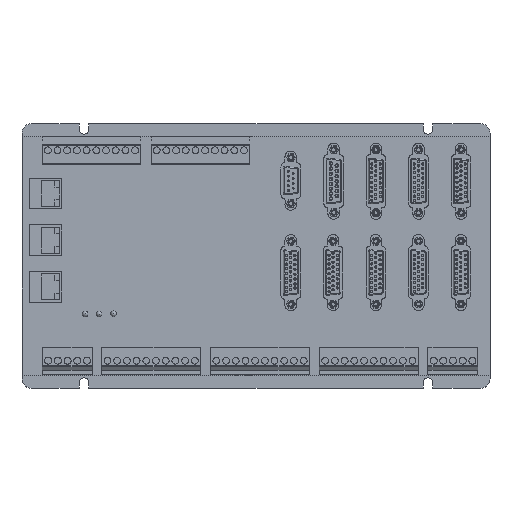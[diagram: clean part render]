
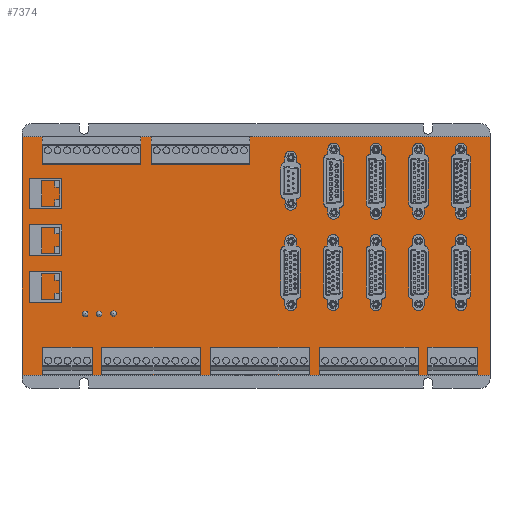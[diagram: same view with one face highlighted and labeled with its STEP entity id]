
A CAD part, top view. The second image highlights one B-rep face of the part: STEP entity #7374.
In plain terms, the highlighted planar face has unit normal (0, 0, 1).
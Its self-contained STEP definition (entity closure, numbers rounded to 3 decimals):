
#5783=FACE_BOUND('',#12498,.T.);
#5784=FACE_BOUND('',#12499,.T.);
#5785=FACE_BOUND('',#12500,.T.);
#5786=FACE_BOUND('',#12501,.T.);
#5787=FACE_BOUND('',#12502,.T.);
#5788=FACE_BOUND('',#12503,.T.);
#5789=FACE_BOUND('',#12504,.T.);
#5790=FACE_BOUND('',#12505,.T.);
#7374=ADVANCED_FACE('',(#5783,#5784,#5785,#5786,#5787,#5788,#5789,#5790),
#9667,.T.);
#9667=PLANE('',#36599);
#12498=EDGE_LOOP('',(#15777,#15778,#15779,#15780));
#12499=EDGE_LOOP('',(#15781,#15782,#15783,#15784));
#12500=EDGE_LOOP('',(#15785,#15786,#15787,#15788));
#12501=EDGE_LOOP('',(#15789,#15790,#15791,#15792));
#12502=EDGE_LOOP('',(#15793,#15794,#15795,#15796));
#12503=EDGE_LOOP('',(#15797,#15798,#15799,#15800));
#12504=EDGE_LOOP('',(#15801,#15802,#15803,#15804));
#12505=EDGE_LOOP('',(#15805,#15806,#15807,#15808));
#15777=ORIENTED_EDGE('',*,*,#27302,.F.);
#15778=ORIENTED_EDGE('',*,*,#27303,.F.);
#15779=ORIENTED_EDGE('',*,*,#27304,.F.);
#15780=ORIENTED_EDGE('',*,*,#27305,.F.);
#15781=ORIENTED_EDGE('',*,*,#27306,.F.);
#15782=ORIENTED_EDGE('',*,*,#27307,.F.);
#15783=ORIENTED_EDGE('',*,*,#27308,.F.);
#15784=ORIENTED_EDGE('',*,*,#27309,.F.);
#15785=ORIENTED_EDGE('',*,*,#27310,.F.);
#15786=ORIENTED_EDGE('',*,*,#27311,.F.);
#15787=ORIENTED_EDGE('',*,*,#27312,.F.);
#15788=ORIENTED_EDGE('',*,*,#27313,.F.);
#15789=ORIENTED_EDGE('',*,*,#27314,.F.);
#15790=ORIENTED_EDGE('',*,*,#27315,.F.);
#15791=ORIENTED_EDGE('',*,*,#27316,.F.);
#15792=ORIENTED_EDGE('',*,*,#27317,.F.);
#15793=ORIENTED_EDGE('',*,*,#27318,.F.);
#15794=ORIENTED_EDGE('',*,*,#27319,.F.);
#15795=ORIENTED_EDGE('',*,*,#27320,.F.);
#15796=ORIENTED_EDGE('',*,*,#27321,.F.);
#15797=ORIENTED_EDGE('',*,*,#27322,.F.);
#15798=ORIENTED_EDGE('',*,*,#27323,.F.);
#15799=ORIENTED_EDGE('',*,*,#27324,.F.);
#15800=ORIENTED_EDGE('',*,*,#27325,.F.);
#15801=ORIENTED_EDGE('',*,*,#27326,.F.);
#15802=ORIENTED_EDGE('',*,*,#27327,.F.);
#15803=ORIENTED_EDGE('',*,*,#27328,.F.);
#15804=ORIENTED_EDGE('',*,*,#27329,.F.);
#15805=ORIENTED_EDGE('',*,*,#27282,.T.);
#15806=ORIENTED_EDGE('',*,*,#27286,.T.);
#15807=ORIENTED_EDGE('',*,*,#27293,.T.);
#15808=ORIENTED_EDGE('',*,*,#27296,.T.);
#24295=VERTEX_POINT('',#50764);
#24296=VERTEX_POINT('',#50765);
#24299=VERTEX_POINT('',#50773);
#24305=VERTEX_POINT('',#50787);
#24311=VERTEX_POINT('',#50804);
#24312=VERTEX_POINT('',#50805);
#24313=VERTEX_POINT('',#50807);
#24314=VERTEX_POINT('',#50809);
#24315=VERTEX_POINT('',#50812);
#24316=VERTEX_POINT('',#50813);
#24317=VERTEX_POINT('',#50815);
#24318=VERTEX_POINT('',#50817);
#24319=VERTEX_POINT('',#50820);
#24320=VERTEX_POINT('',#50821);
#24321=VERTEX_POINT('',#50823);
#24322=VERTEX_POINT('',#50825);
#24323=VERTEX_POINT('',#50828);
#24324=VERTEX_POINT('',#50829);
#24325=VERTEX_POINT('',#50831);
#24326=VERTEX_POINT('',#50833);
#24327=VERTEX_POINT('',#50836);
#24328=VERTEX_POINT('',#50837);
#24329=VERTEX_POINT('',#50839);
#24330=VERTEX_POINT('',#50841);
#24331=VERTEX_POINT('',#50844);
#24332=VERTEX_POINT('',#50845);
#24333=VERTEX_POINT('',#50847);
#24334=VERTEX_POINT('',#50849);
#24335=VERTEX_POINT('',#50852);
#24336=VERTEX_POINT('',#50853);
#24337=VERTEX_POINT('',#50855);
#24338=VERTEX_POINT('',#50857);
#27282=EDGE_CURVE('',#24295,#24296,#31553,.T.);
#27286=EDGE_CURVE('',#24296,#24299,#31557,.T.);
#27293=EDGE_CURVE('',#24299,#24305,#31564,.T.);
#27296=EDGE_CURVE('',#24305,#24295,#31567,.T.);
#27302=EDGE_CURVE('',#24311,#24312,#31573,.T.);
#27303=EDGE_CURVE('',#24313,#24311,#31574,.T.);
#27304=EDGE_CURVE('',#24314,#24313,#31575,.T.);
#27305=EDGE_CURVE('',#24312,#24314,#31576,.T.);
#27306=EDGE_CURVE('',#24315,#24316,#31577,.T.);
#27307=EDGE_CURVE('',#24317,#24315,#31578,.T.);
#27308=EDGE_CURVE('',#24318,#24317,#31579,.T.);
#27309=EDGE_CURVE('',#24316,#24318,#31580,.T.);
#27310=EDGE_CURVE('',#24319,#24320,#31581,.T.);
#27311=EDGE_CURVE('',#24321,#24319,#31582,.T.);
#27312=EDGE_CURVE('',#24322,#24321,#31583,.T.);
#27313=EDGE_CURVE('',#24320,#24322,#31584,.T.);
#27314=EDGE_CURVE('',#24323,#24324,#31585,.T.);
#27315=EDGE_CURVE('',#24325,#24323,#31586,.T.);
#27316=EDGE_CURVE('',#24326,#24325,#31587,.T.);
#27317=EDGE_CURVE('',#24324,#24326,#31588,.T.);
#27318=EDGE_CURVE('',#24327,#24328,#31589,.T.);
#27319=EDGE_CURVE('',#24329,#24327,#31590,.T.);
#27320=EDGE_CURVE('',#24330,#24329,#31591,.T.);
#27321=EDGE_CURVE('',#24328,#24330,#31592,.T.);
#27322=EDGE_CURVE('',#24331,#24332,#31593,.T.);
#27323=EDGE_CURVE('',#24333,#24331,#31594,.T.);
#27324=EDGE_CURVE('',#24334,#24333,#31595,.T.);
#27325=EDGE_CURVE('',#24332,#24334,#31596,.T.);
#27326=EDGE_CURVE('',#24335,#24336,#31597,.T.);
#27327=EDGE_CURVE('',#24337,#24335,#31598,.T.);
#27328=EDGE_CURVE('',#24338,#24337,#31599,.T.);
#27329=EDGE_CURVE('',#24336,#24338,#31600,.T.);
#31553=LINE('',#50763,#34048);
#31557=LINE('',#50772,#34052);
#31564=LINE('',#50786,#34059);
#31567=LINE('',#50792,#34062);
#31573=LINE('',#50803,#34068);
#31574=LINE('',#50806,#34069);
#31575=LINE('',#50808,#34070);
#31576=LINE('',#50810,#34071);
#31577=LINE('',#50811,#34072);
#31578=LINE('',#50814,#34073);
#31579=LINE('',#50816,#34074);
#31580=LINE('',#50818,#34075);
#31581=LINE('',#50819,#34076);
#31582=LINE('',#50822,#34077);
#31583=LINE('',#50824,#34078);
#31584=LINE('',#50826,#34079);
#31585=LINE('',#50827,#34080);
#31586=LINE('',#50830,#34081);
#31587=LINE('',#50832,#34082);
#31588=LINE('',#50834,#34083);
#31589=LINE('',#50835,#34084);
#31590=LINE('',#50838,#34085);
#31591=LINE('',#50840,#34086);
#31592=LINE('',#50842,#34087);
#31593=LINE('',#50843,#34088);
#31594=LINE('',#50846,#34089);
#31595=LINE('',#50848,#34090);
#31596=LINE('',#50850,#34091);
#31597=LINE('',#50851,#34092);
#31598=LINE('',#50854,#34093);
#31599=LINE('',#50856,#34094);
#31600=LINE('',#50858,#34095);
#34048=VECTOR('',#40470,1.);
#34052=VECTOR('',#40476,1.);
#34059=VECTOR('',#40485,1.);
#34062=VECTOR('',#40490,1.);
#34068=VECTOR('',#40498,1.);
#34069=VECTOR('',#40499,1.);
#34070=VECTOR('',#40500,1.);
#34071=VECTOR('',#40501,1.);
#34072=VECTOR('',#40502,1.);
#34073=VECTOR('',#40503,1.);
#34074=VECTOR('',#40504,1.);
#34075=VECTOR('',#40505,1.);
#34076=VECTOR('',#40506,1.);
#34077=VECTOR('',#40507,1.);
#34078=VECTOR('',#40508,1.);
#34079=VECTOR('',#40509,1.);
#34080=VECTOR('',#40510,1.);
#34081=VECTOR('',#40511,1.);
#34082=VECTOR('',#40512,1.);
#34083=VECTOR('',#40513,1.);
#34084=VECTOR('',#40514,1.);
#34085=VECTOR('',#40515,1.);
#34086=VECTOR('',#40516,1.);
#34087=VECTOR('',#40517,1.);
#34088=VECTOR('',#40518,1.);
#34089=VECTOR('',#40519,1.);
#34090=VECTOR('',#40520,1.);
#34091=VECTOR('',#40521,1.);
#34092=VECTOR('',#40522,1.);
#34093=VECTOR('',#40523,1.);
#34094=VECTOR('',#40524,1.);
#34095=VECTOR('',#40525,1.);
#36599=AXIS2_PLACEMENT_3D('',#50859,#40526,#40527);
#40470=DIRECTION('',(1.,0.,0.));
#40476=DIRECTION('',(0.,1.,0.));
#40485=DIRECTION('',(-1.,0.,0.));
#40490=DIRECTION('',(0.,-1.,0.));
#40498=DIRECTION('',(1.,0.,0.));
#40499=DIRECTION('',(0.,-1.,0.));
#40500=DIRECTION('',(-1.,0.,0.));
#40501=DIRECTION('',(0.,1.,0.));
#40502=DIRECTION('',(1.,0.,0.));
#40503=DIRECTION('',(0.,-1.,0.));
#40504=DIRECTION('',(-1.,0.,0.));
#40505=DIRECTION('',(0.,1.,0.));
#40506=DIRECTION('',(0.,1.,0.));
#40507=DIRECTION('',(1.,0.,0.));
#40508=DIRECTION('',(0.,-1.,0.));
#40509=DIRECTION('',(-1.,0.,0.));
#40510=DIRECTION('',(0.,1.,0.));
#40511=DIRECTION('',(1.,0.,0.));
#40512=DIRECTION('',(0.,-1.,0.));
#40513=DIRECTION('',(-1.,0.,0.));
#40514=DIRECTION('',(-1.,0.,0.));
#40515=DIRECTION('',(0.,1.,0.));
#40516=DIRECTION('',(1.,0.,0.));
#40517=DIRECTION('',(0.,-1.,0.));
#40518=DIRECTION('',(-1.,0.,0.));
#40519=DIRECTION('',(0.,1.,0.));
#40520=DIRECTION('',(1.,0.,0.));
#40521=DIRECTION('',(0.,-1.,0.));
#40522=DIRECTION('',(-1.,0.,0.));
#40523=DIRECTION('',(0.,1.,0.));
#40524=DIRECTION('',(1.,0.,0.));
#40525=DIRECTION('',(0.,-1.,0.));
#40526=DIRECTION('',(0.,0.,1.));
#40527=DIRECTION('',(1.,0.,0.));
#50763=CARTESIAN_POINT('',(497.92,82.322,0.));
#50764=CARTESIAN_POINT('',(497.92,82.322,0.));
#50765=CARTESIAN_POINT('',(742.92,82.322,0.));
#50772=CARTESIAN_POINT('',(742.92,82.322,0.));
#50773=CARTESIAN_POINT('',(742.92,207.322,0.));
#50786=CARTESIAN_POINT('',(742.92,207.322,0.));
#50787=CARTESIAN_POINT('',(497.92,207.322,0.));
#50792=CARTESIAN_POINT('',(497.92,207.322,0.));
#50803=CARTESIAN_POINT('',(0.,192.922,0.));
#50804=CARTESIAN_POINT('',(508.51,192.922,0.));
#50805=CARTESIAN_POINT('',(560.178,192.922,0.));
#50806=CARTESIAN_POINT('',(508.51,0.,0.));
#50807=CARTESIAN_POINT('',(508.51,207.052,0.));
#50808=CARTESIAN_POINT('',(0.,207.052,0.));
#50809=CARTESIAN_POINT('',(560.178,207.052,0.));
#50810=CARTESIAN_POINT('',(560.178,0.,0.));
#50811=CARTESIAN_POINT('',(0.,192.922,0.));
#50812=CARTESIAN_POINT('',(565.51,192.922,0.));
#50813=CARTESIAN_POINT('',(617.178,192.922,0.));
#50814=CARTESIAN_POINT('',(565.51,0.,0.));
#50815=CARTESIAN_POINT('',(565.51,207.052,0.));
#50816=CARTESIAN_POINT('',(0.,207.052,0.));
#50817=CARTESIAN_POINT('',(617.178,207.052,0.));
#50818=CARTESIAN_POINT('',(617.178,0.,0.));
#50819=CARTESIAN_POINT('',(534.778,0.,0.));
#50820=CARTESIAN_POINT('',(534.778,82.922,0.));
#50821=CARTESIAN_POINT('',(534.778,97.052,0.));
#50822=CARTESIAN_POINT('',(0.,82.922,0.));
#50823=CARTESIAN_POINT('',(508.61,82.922,0.));
#50824=CARTESIAN_POINT('',(508.61,0.,0.));
#50825=CARTESIAN_POINT('',(508.61,97.052,0.));
#50826=CARTESIAN_POINT('',(0.,97.052,0.));
#50827=CARTESIAN_POINT('',(736.578,0.,0.));
#50828=CARTESIAN_POINT('',(736.578,82.922,0.));
#50829=CARTESIAN_POINT('',(736.578,97.052,0.));
#50830=CARTESIAN_POINT('',(0.,82.922,0.));
#50831=CARTESIAN_POINT('',(710.41,82.922,0.));
#50832=CARTESIAN_POINT('',(710.41,0.,0.));
#50833=CARTESIAN_POINT('',(710.41,97.052,0.));
#50834=CARTESIAN_POINT('',(0.,97.052,0.));
#50835=CARTESIAN_POINT('',(0.,97.052,0.));
#50836=CARTESIAN_POINT('',(705.278,97.052,0.));
#50837=CARTESIAN_POINT('',(653.61,97.052,0.));
#50838=CARTESIAN_POINT('',(705.278,0.,0.));
#50839=CARTESIAN_POINT('',(705.278,82.922,0.));
#50840=CARTESIAN_POINT('',(0.,82.922,0.));
#50841=CARTESIAN_POINT('',(653.61,82.922,0.));
#50842=CARTESIAN_POINT('',(653.61,0.,0.));
#50843=CARTESIAN_POINT('',(0.,97.052,0.));
#50844=CARTESIAN_POINT('',(648.278,97.052,0.));
#50845=CARTESIAN_POINT('',(596.61,97.052,0.));
#50846=CARTESIAN_POINT('',(648.278,0.,0.));
#50847=CARTESIAN_POINT('',(648.278,82.922,0.));
#50848=CARTESIAN_POINT('',(0.,82.922,0.));
#50849=CARTESIAN_POINT('',(596.61,82.922,0.));
#50850=CARTESIAN_POINT('',(596.61,0.,0.));
#50851=CARTESIAN_POINT('',(0.,97.052,0.));
#50852=CARTESIAN_POINT('',(591.278,97.052,0.));
#50853=CARTESIAN_POINT('',(539.61,97.052,0.));
#50854=CARTESIAN_POINT('',(591.278,0.,0.));
#50855=CARTESIAN_POINT('',(591.278,82.922,0.));
#50856=CARTESIAN_POINT('',(0.,82.922,0.));
#50857=CARTESIAN_POINT('',(539.61,82.922,0.));
#50858=CARTESIAN_POINT('',(539.61,0.,0.));
#50859=CARTESIAN_POINT('',(0.,0.,0.));
